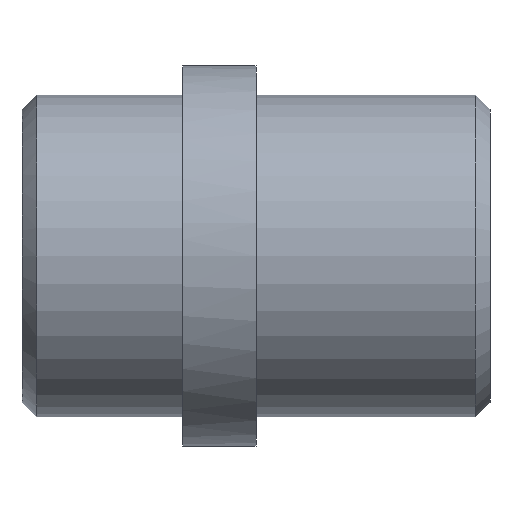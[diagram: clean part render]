
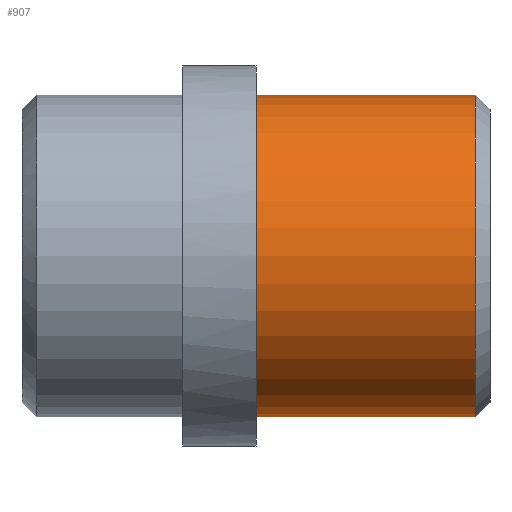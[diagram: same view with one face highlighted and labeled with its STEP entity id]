
A CAD part, front view. The second image highlights one B-rep face of the part: STEP entity #907.
In plain terms, the highlighted cylindrical face has radius 11 mm (diameter 22 mm), a partial arc.
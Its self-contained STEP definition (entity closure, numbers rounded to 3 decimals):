
#773=CARTESIAN_POINT('Vertex',(0.,0.,-11.)) ;
#778=CARTESIAN_POINT('Axis2P3D Location',(0.,0.,0.)) ;
#782=CARTESIAN_POINT('Vertex',(0.,-11.,0.)) ;
#785=CARTESIAN_POINT('Axis2P3D Location',(0.,0.,0.)) ;
#789=CARTESIAN_POINT('Vertex',(0.,0.,11.)) ;
#813=CARTESIAN_POINT('Vertex',(15.,0.,11.)) ;
#820=CARTESIAN_POINT('Vertex',(15.,0.,-11.)) ;
#849=CARTESIAN_POINT('Axis2P3D Location',(15.,0.,0.)) ;
#853=CARTESIAN_POINT('Vertex',(15.,-11.,0.)) ;
#856=CARTESIAN_POINT('Axis2P3D Location',(15.,0.,0.)) ;
#875=CARTESIAN_POINT('Line Origine',(16.,0.,11.)) ;
#880=CARTESIAN_POINT('Line Origine',(16.,0.,-11.)) ;
#894=CARTESIAN_POINT('Axis2P3D Location',(16.,0.,0.)) ;
#779=DIRECTION('Axis2P3D Direction',(1.,0.,-0.)) ;
#786=DIRECTION('Axis2P3D Direction',(1.,0.,-0.)) ;
#850=DIRECTION('Axis2P3D Direction',(-1.,0.,0.)) ;
#857=DIRECTION('Axis2P3D Direction',(-1.,0.,0.)) ;
#876=DIRECTION('Vector Direction',(-1.,0.,0.)) ;
#881=DIRECTION('Vector Direction',(-1.,0.,0.)) ;
#895=DIRECTION('Axis2P3D Direction',(-1.,-0.,-0.)) ;
#896=DIRECTION('Axis2P3D XDirection',(0.,0.,-1.)) ;
#780=AXIS2_PLACEMENT_3D('Circle Axis2P3D',#778,#779,$) ;
#787=AXIS2_PLACEMENT_3D('Circle Axis2P3D',#785,#786,$) ;
#851=AXIS2_PLACEMENT_3D('Circle Axis2P3D',#849,#850,$) ;
#858=AXIS2_PLACEMENT_3D('Circle Axis2P3D',#856,#857,$) ;
#897=AXIS2_PLACEMENT_3D('Cylinder Axis2P3D',#894,#895,#896) ;
#900=ORIENTED_EDGE('',*,*,#884,.T.) ;
#901=ORIENTED_EDGE('',*,*,#860,.F.) ;
#902=ORIENTED_EDGE('',*,*,#855,.F.) ;
#903=ORIENTED_EDGE('',*,*,#879,.T.) ;
#904=ORIENTED_EDGE('',*,*,#791,.T.) ;
#905=ORIENTED_EDGE('',*,*,#784,.T.) ;
#877=VECTOR('Line Direction',#876,1.) ;
#882=VECTOR('Line Direction',#881,1.) ;
#907=ADVANCED_FACE('G403-16X32',(#906),#898,.T.) ;
#781=CIRCLE('generated circle',#780,11.) ;
#788=CIRCLE('generated circle',#787,11.) ;
#852=CIRCLE('generated circle',#851,11.) ;
#859=CIRCLE('generated circle',#858,11.) ;
#898=CYLINDRICAL_SURFACE('generated cylinder',#897,11.) ;
#784=EDGE_CURVE('',#783,#774,#781,.T.) ;
#791=EDGE_CURVE('',#790,#783,#788,.T.) ;
#855=EDGE_CURVE('',#814,#854,#852,.F.) ;
#860=EDGE_CURVE('',#854,#821,#859,.F.) ;
#879=EDGE_CURVE('',#814,#790,#878,.T.) ;
#884=EDGE_CURVE('',#774,#821,#883,.F.) ;
#899=EDGE_LOOP('',(#900,#901,#902,#903,#904,#905)) ;
#906=FACE_OUTER_BOUND('',#899,.T.) ;
#878=LINE('Line',#875,#877) ;
#883=LINE('Line',#880,#882) ;
#774=VERTEX_POINT('',#773) ;
#783=VERTEX_POINT('',#782) ;
#790=VERTEX_POINT('',#789) ;
#814=VERTEX_POINT('',#813) ;
#821=VERTEX_POINT('',#820) ;
#854=VERTEX_POINT('',#853) ;
